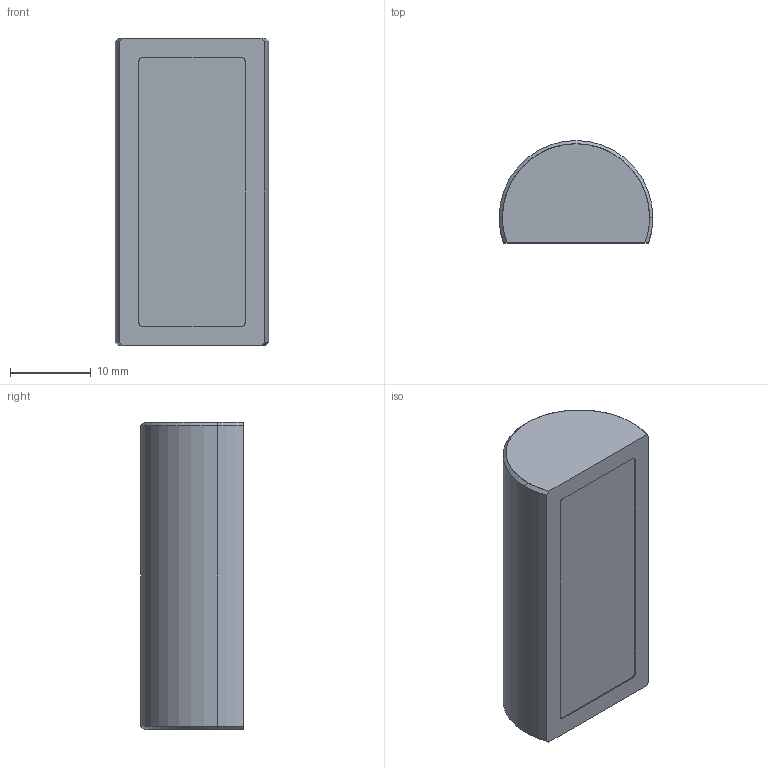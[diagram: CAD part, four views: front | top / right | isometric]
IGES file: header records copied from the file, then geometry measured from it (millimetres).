
Start section: SolidWorks IGES file using analytic representation for surfaces
Global section: file name: D:\Solid_parts\MECHeDESIGN\Bal-Tec\Catalog 105-A\Distribution\IGES\750-TCR.IGS; native system: SolidWorks 2005 by SolidWorks Corporation; preprocessor: SolidWorks 2005 by SolidWorks Corporation; author: rvillegas; date: 061205.184040; units: inch
Bounding box: 19.05 x 12.7 x 38.1 mm (x, y, z)
Surface area: 2468.6 mm2 (no closed solid volume)
Topology: 0 solids, 0 shells, 21 faces, 158 edges, 158 vertices
Faces by surface type: revolution 13, bspline 8
